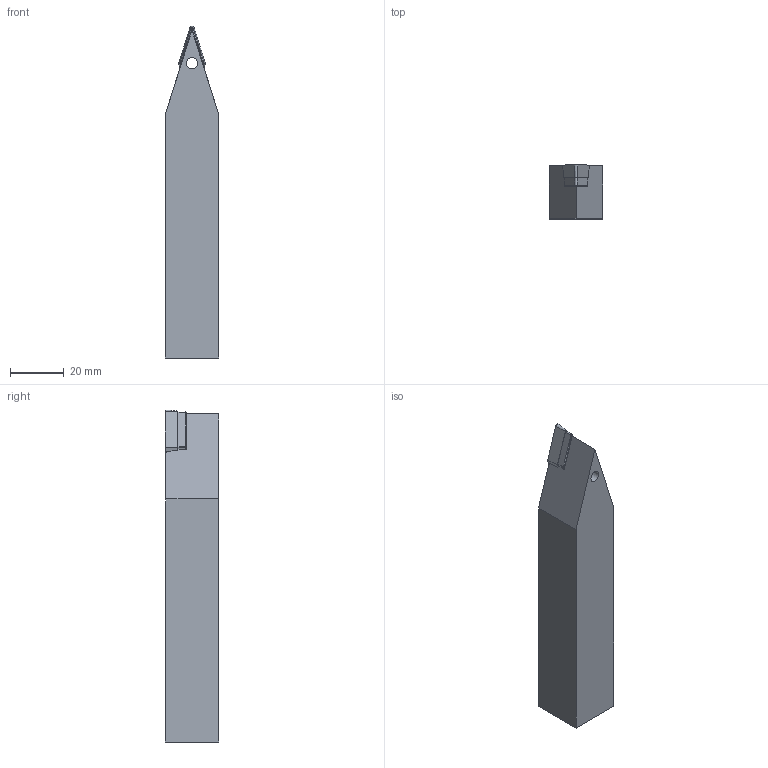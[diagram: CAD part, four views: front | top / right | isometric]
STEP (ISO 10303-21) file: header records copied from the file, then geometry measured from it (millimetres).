
FILE_DESCRIPTION(/* description */ (''),/* implementation_level */ '2;1');
FILE_NAME(/* name */ 'SVVBN2020-K16-HAAS.stp',/* time_stamp */ '2021-09-29T11:02:24+09:00',/* author */ (''),/* organization */ (''),/* preprocessor_version */ 'ST-DEVELOPER v16.7',/* originating_system */ 'SIEMENS PLM Software NX 1946',/* authorisation */ '');
FILE_SCHEMA (('AP203_CONFIGURATION_CONTROLLED_3D_DESIGN_OF_MECHANICAL_PARTS_AND_ASSEMBLIES_MIM_LF { 1 0 10303 403 2 1 2}'));
Length unit declared in the file: millimetre
Products named in the file (1): user51A0C9E069bx
Bounding box: 20 x 20 x 124.07 mm (x, y, z)
Volume: 42256.9 mm3; surface area: 10824.7 mm2
Topology: 3 solids, 3 shells, 55 faces, 139 edges, 90 vertices
Faces by surface type: plane 40, cylinder 8, cone 7
Full cylindrical faces by diameter (mm): 4.2 x1, 5.4 x1, 6.2 x1
Entity records: 1715 total; most frequent: CARTESIAN_POINT 279, DIRECTION 271, ORIENTED_EDGE 268, EDGE_CURVE 134, LINE 109, VECTOR 109, VERTEX_POINT 89, AXIS2_PLACEMENT_3D 81
